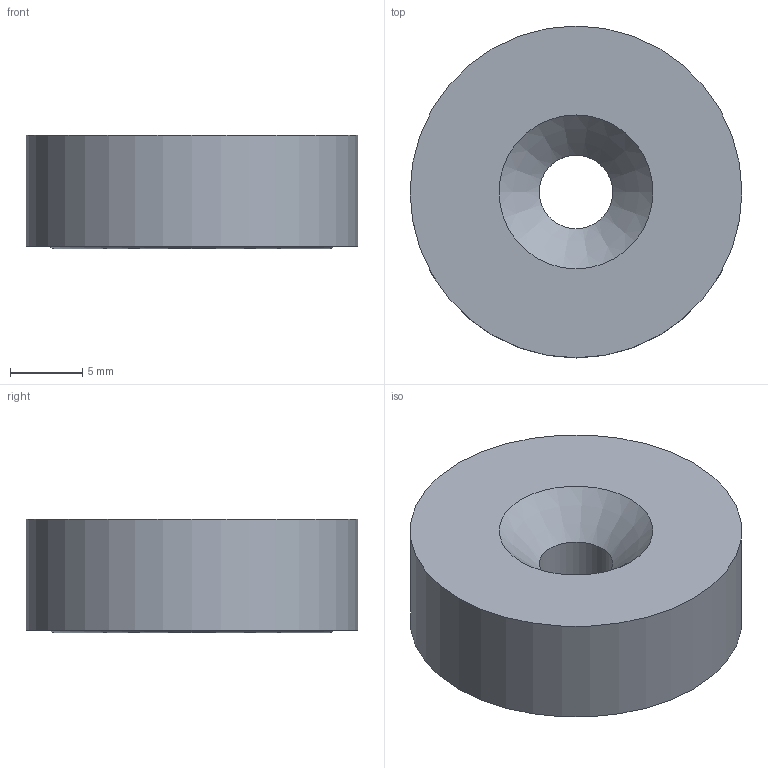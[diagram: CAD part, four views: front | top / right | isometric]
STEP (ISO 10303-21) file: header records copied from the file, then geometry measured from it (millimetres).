
FILE_DESCRIPTION(/* description */ ('Katalogmodell Elobau'),/* implementation_level */ '2;1');
FILE_NAME(/* name */ 'Katalogdaten.stp',/* time_stamp */ '2014-06-26T08:53:51+02:00',/* author */ ('Elobau GmbH & Co. KG'),/* organization */ ('Elobau GmbH & Co. KG'),/* preprocessor_version */ 'ST-DEVELOPER v15',/* originating_system */ 'SIEMENS PLM Software NX 8.5',/* authorisation */ '');
FILE_SCHEMA (('AUTOMOTIVE_DESIGN { 1 0 10303 214 3 1 1 1 }'));
Length unit declared in the file: millimetre
Products named in the file (1): 300790_A
Bounding box: 23 x 23 x 7.85 mm (x, y, z)
Volume: 2998.9 mm3; surface area: 1458.7 mm2
Topology: 1 solids, 1 shells, 7 faces, 13 edges, 9 vertices
Faces by surface type: plane 3, cylinder 2, cone 1, torus 1
Full cylindrical faces by diameter (mm): 5.1 x1, 23 x1
Entity records: 173 total; most frequent: DIRECTION 30, CARTESIAN_POINT 22, AXIS2_PLACEMENT_3D 15, FACE_BOUND 14, EDGE_LOOP 14, ORIENTED_EDGE 14, ADVANCED_FACE 7, VERTEX_POINT 7
